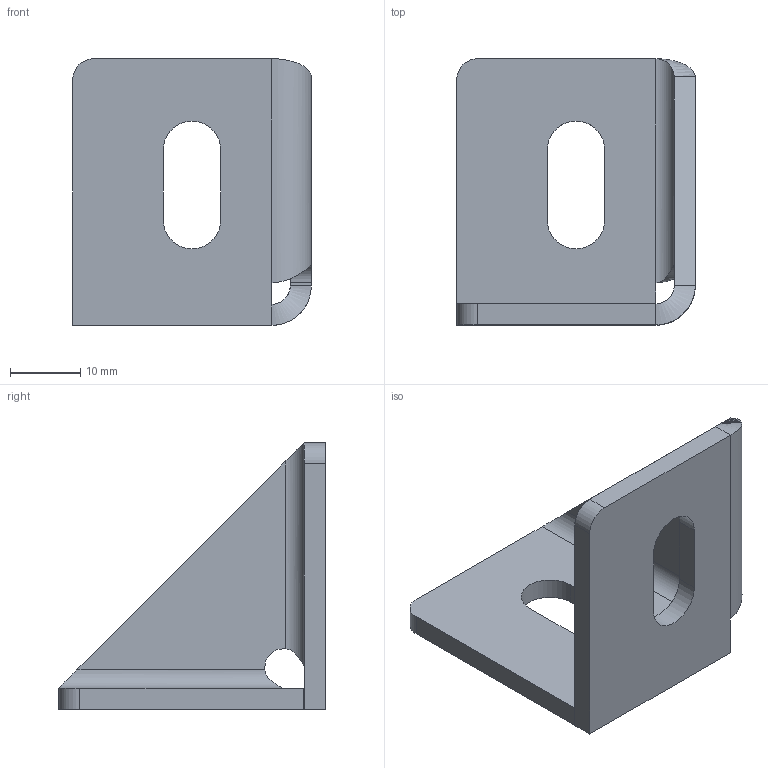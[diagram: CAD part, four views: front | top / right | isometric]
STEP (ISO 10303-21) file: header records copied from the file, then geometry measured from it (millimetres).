
FILE_DESCRIPTION (( 'STEP AP203' ), '1' );
FILE_NAME ('8202s.STEP', '2016-03-25T14:08:08', ( '' ), ( '' ), 'SwSTEP 2.0', 'SolidWorks 2014', '' );
FILE_SCHEMA (( 'CONFIG_CONTROL_DESIGN' ));
Length unit declared in the file: millimetre
Products named in the file (1): 8202s
Bounding box: 34 x 38 x 38 mm (x, y, z)
Volume: 7848.1 mm3; surface area: 6311.4 mm2
Topology: 1 solids, 1 shells, 37 faces, 89 edges, 54 vertices
Faces by surface type: plane 21, cylinder 12, bspline 4
Entity records: 1240 total; most frequent: CARTESIAN_POINT 327, ORIENTED_EDGE 178, DIRECTION 161, EDGE_CURVE 89, LINE 61, VECTOR 61, VERTEX_POINT 54, AXIS2_PLACEMENT_3D 50
